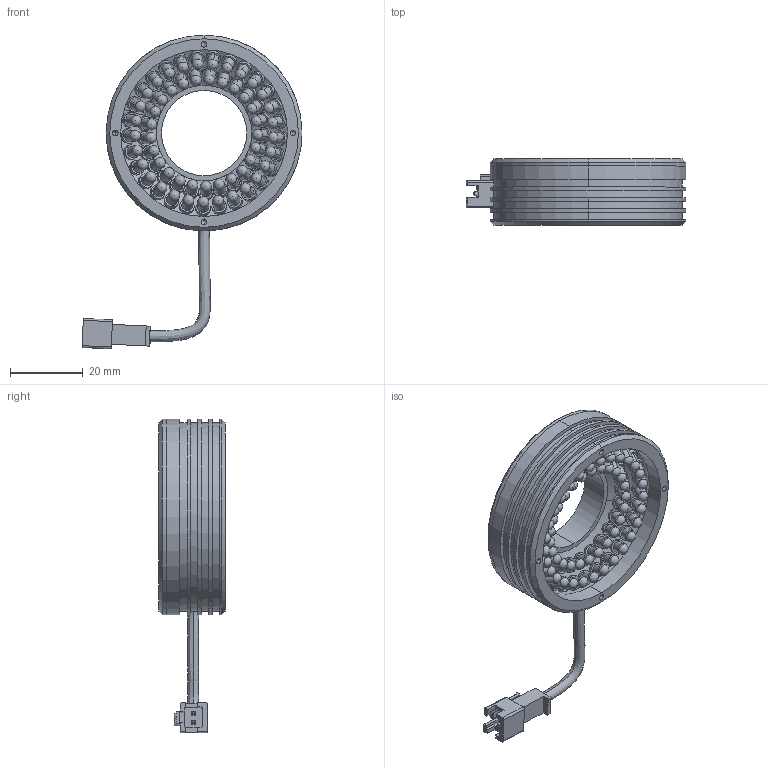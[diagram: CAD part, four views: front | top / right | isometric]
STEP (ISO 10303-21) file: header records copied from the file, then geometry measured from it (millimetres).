
FILE_DESCRIPTION (( 'STEP AP214' ), '1' );
FILE_NAME ('LSW-30-050-2-X-12V-ASSEMBLY.STEP', '2016-08-24T03:32:22', ( '' ), ( '' ), 'SwSTEP 2.0', 'SolidWorks 2015', '' );
FILE_SCHEMA (( 'AUTOMOTIVE_DESIGN' ));
Length unit declared in the file: millimetre
Products named in the file (6): 12V CONNECTER; CABLE 3 MM; LSW-30-050-PCB; LSW-30-050-2-X-24V-02 COVER; LSW-30-050-2-X-24V-01 CASING; LSW-30-050-2-X-12V-ASSEMBLY
Assembly tree (5 placements, depth 2):
  LSW-30-050-2-X-12V-ASSEMBLY
    LSW-30-050-2-X-24V-01 CASING
    LSW-30-050-2-X-24V-02 COVER
    LSW-30-050-PCB
    CABLE 3 MM
    12V CONNECTER
Bounding box: 60.67 x 18.3 x 86.51 mm (x, y, z)
Volume: 16828.6 mm3; surface area: 20341.2 mm2
Topology: 5 solids, 5 shells, 570 faces, 1481 edges, 985 vertices
Faces by surface type: cylinder 274, plane 160, sphere 108, cone 20, bspline 8
Entity records: 20612 total; most frequent: CARTESIAN_POINT 6612, DIRECTION 3000, ORIENTED_EDGE 2652, EDGE_CURVE 1326, AXIS2_PLACEMENT_3D 1240, VERTEX_POINT 892, EDGE_LOOP 704, CIRCLE 670
